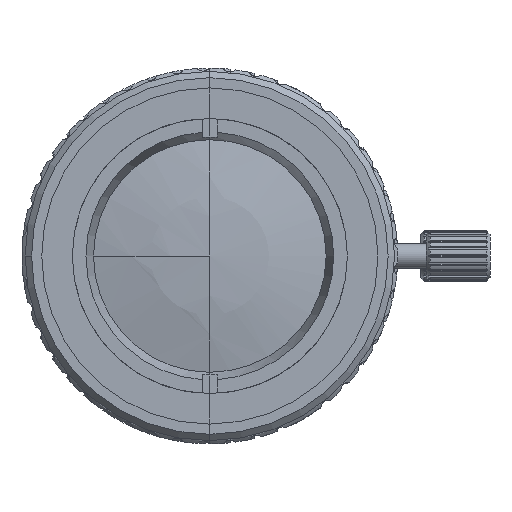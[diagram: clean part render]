
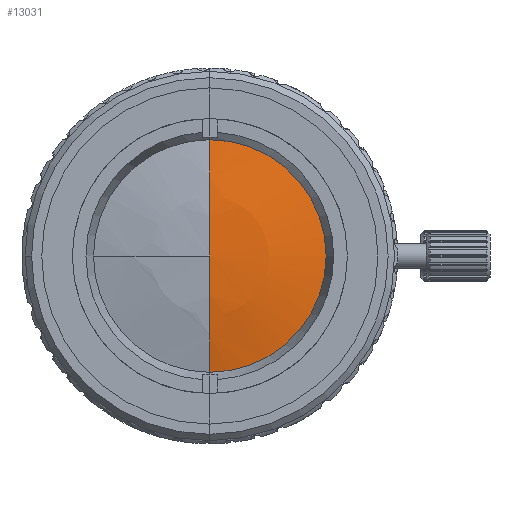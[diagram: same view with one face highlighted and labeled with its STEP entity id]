
A CAD part, left-side view. The second image highlights one B-rep face of the part: STEP entity #13031.
In plain terms, the highlighted spherical face has radius 41.335 mm.
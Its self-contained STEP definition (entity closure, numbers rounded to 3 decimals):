
#2396 = CARTESIAN_POINT ( 'NONE',  ( 17.596, 0., 0. ) ) ;
#4134 = AXIS2_PLACEMENT_3D ( 'NONE', #44435, #25081, #14361 ) ;
#6554 = CIRCLE ( 'NONE', #4134, 9.219 ) ;
#10312 = SPHERICAL_SURFACE ( 'NONE', #12128, 41.335 ) ;
#10650 = EDGE_CURVE ( 'NONE', #29884, #36272, #6554, .T. ) ;
#12128 = AXIS2_PLACEMENT_3D ( 'NONE', #2396, #32732, #13886 ) ;
#12171 = CIRCLE ( 'NONE', #30830, 41.335 ) ;
#13031 = ADVANCED_FACE ( 'NONE', ( #31743 ), #10312, .T. ) ;
#13886 = DIRECTION ( 'NONE',  ( 0., 0., 1. ) ) ;
#14117 = EDGE_CURVE ( 'NONE', #36272, #29884, #12171, .T. ) ;
#14361 = DIRECTION ( 'NONE',  ( 0., 1., 0. ) ) ;
#17041 = EDGE_LOOP ( 'NONE', ( #29866, #21724 ) ) ;
#19696 = DIRECTION ( 'NONE',  ( 0., 0., -1. ) ) ;
#21724 = ORIENTED_EDGE ( 'NONE', *, *, #10650, .T. ) ;
#25081 = DIRECTION ( 'NONE',  ( -1., 0., 0. ) ) ;
#29866 = ORIENTED_EDGE ( 'NONE', *, *, #14117, .T. ) ;
#29884 = VERTEX_POINT ( 'NONE', #46565 ) ;
#30830 = AXIS2_PLACEMENT_3D ( 'NONE', #46705, #19696, #46945 ) ;
#31743 = FACE_OUTER_BOUND ( 'NONE', #17041, .T. ) ;
#32732 = DIRECTION ( 'NONE',  ( 1., 0., 0. ) ) ;
#36272 = VERTEX_POINT ( 'NONE', #49576 ) ;
#44435 = CARTESIAN_POINT ( 'NONE',  ( -22.698, 0., 0. ) ) ;
#46565 = CARTESIAN_POINT ( 'NONE',  ( -22.698, 9.219, 0. ) ) ;
#46705 = CARTESIAN_POINT ( 'NONE',  ( 17.596, 0., 0. ) ) ;
#46945 = DIRECTION ( 'NONE',  ( 0., -1., 0. ) ) ;
#49576 = CARTESIAN_POINT ( 'NONE',  ( -22.698, -9.219, 0. ) ) ;
